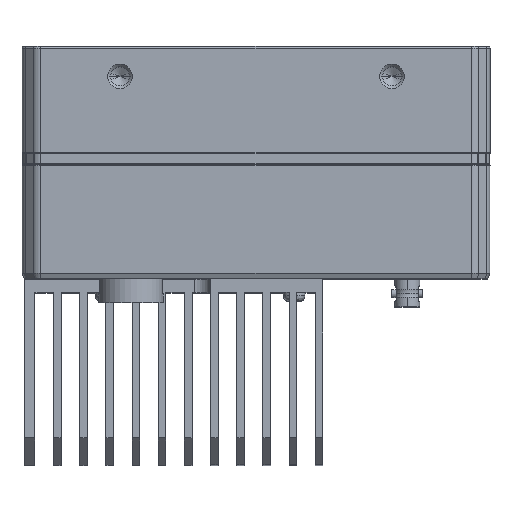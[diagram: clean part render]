
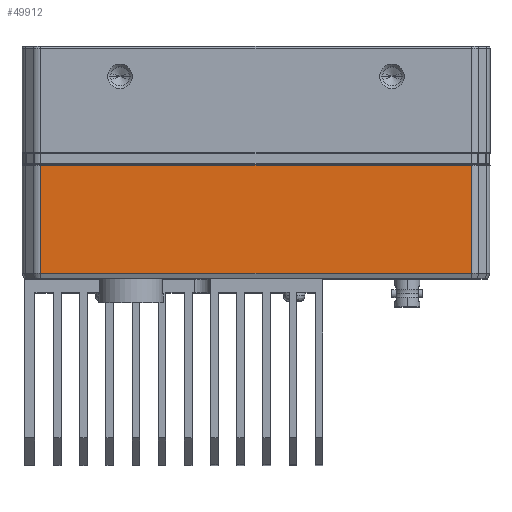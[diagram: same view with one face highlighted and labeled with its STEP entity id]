
A CAD part, top view. The second image highlights one B-rep face of the part: STEP entity #49912.
In plain terms, the highlighted planar face has unit normal (0, 0, 1) as drawn and (0, 1, 0) by its records, which use the part's own axes.
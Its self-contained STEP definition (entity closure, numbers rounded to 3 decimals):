
#42005=DIRECTION('',(0.,0.,1.));
#42006=VECTOR('',#42005,79.043);
#42007=CARTESIAN_POINT('',(9.,43.,
-39.522));
#42008=LINE('',#42007,#42006);
#42009=DIRECTION('',(1.,0.,0.));
#42010=VECTOR('',#42009,19.89);
#42011=CARTESIAN_POINT('',(-10.89,43.,39.522));
#42012=LINE('',#42011,#42010);
#42013=DIRECTION('',(-1.,0.,0.));
#42014=VECTOR('',#42013,19.89);
#42015=CARTESIAN_POINT('',(9.,43.,
-39.522));
#42016=LINE('',#42015,#42014);
#42048=DIRECTION('',(0.,0.,1.));
#42049=VECTOR('',#42048,79.043);
#42050=CARTESIAN_POINT('',(-10.89,43.,-39.522));
#42051=LINE('',#42050,#42049);
#48200=CARTESIAN_POINT('',(-10.89,43.,39.522));
#48202=VERTEX_POINT('',#48200);
#48223=CARTESIAN_POINT('',(-10.89,43.,-39.522));
#48225=VERTEX_POINT('',#48223);
#48231=CARTESIAN_POINT('',(9.,43.,
-39.522));
#48232=CARTESIAN_POINT('',(9.,43.,39.522));
#48233=VERTEX_POINT('',#48231);
#48234=VERTEX_POINT('',#48232);
#49897=CARTESIAN_POINT('',(0.,43.,-43.));
#49898=DIRECTION('',(0.,1.,0.));
#49899=DIRECTION('',(0.,0.,1.));
#49900=AXIS2_PLACEMENT_3D('',#49897,#49898,#49899);
#49901=PLANE('',#49900);
#49903=ORIENTED_EDGE('',*,*,#49902,.T.);
#49905=ORIENTED_EDGE('',*,*,#49904,.F.);
#49907=ORIENTED_EDGE('',*,*,#49906,.F.);
#49909=ORIENTED_EDGE('',*,*,#49908,.F.);
#49910=EDGE_LOOP('',(#49903,#49905,#49907,#49909));
#49911=FACE_OUTER_BOUND('',#49910,.F.);
#49912=ADVANCED_FACE('',(#49911),#49901,.T.);
#49902=EDGE_CURVE('',#48233,#48234,#42008,.T.);
#49904=EDGE_CURVE('',#48202,#48234,#42012,.T.);
#49906=EDGE_CURVE('',#48225,#48202,#42051,.T.);
#49908=EDGE_CURVE('',#48233,#48225,#42016,.T.);
